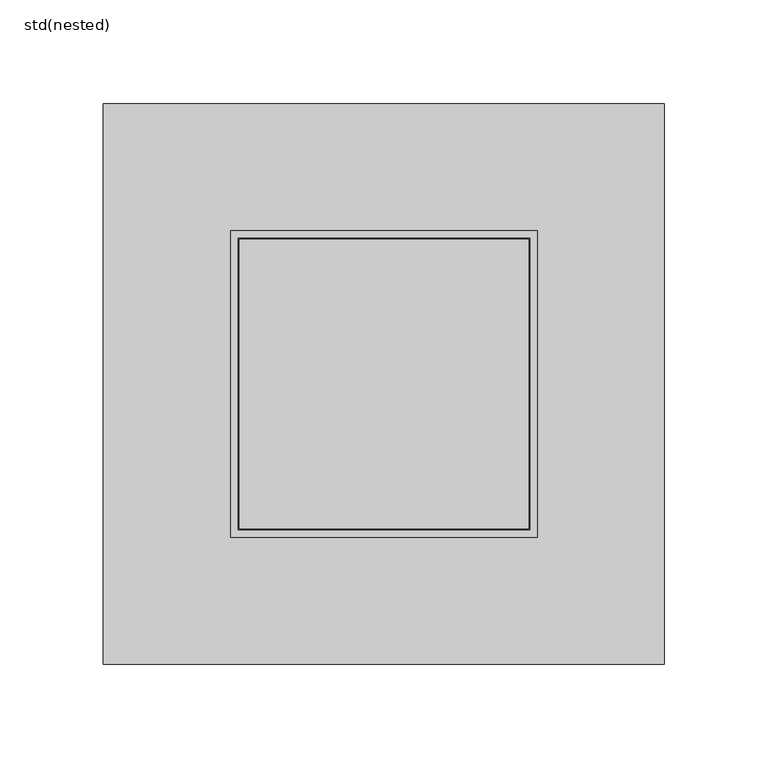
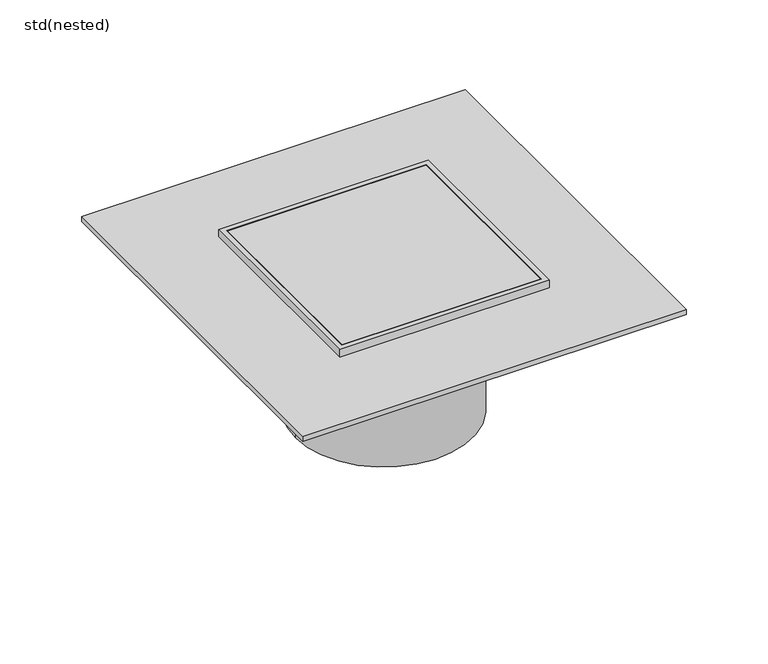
"""IFC4 building model written with IfcOpenShell, lengths in millimetres: sanitary terminal geometry, ZZZ_do not use_PF_ST_WPB_sanded flange floor gratings_CR 142_ACO : std(nested)."""

from ifc_helpers import new_model, si_unit, frame, origin, place, context, project, spatial, polyline, circle_curve, outline, extrude, source, transform, mapped, element, save
from ifc_brep_helpers import plane_surface, cylinder_surface, advanced_brep


def std_nested_ba9d458a(model_context):
    return source(origin(), model_context, "Body", "SolidModel", [
        extrude(outline(polyline([(135.5, 135.5), (135.5, -135.5), (-135.5, -135.5), (-135.5, 135.5), (135.5, 135.5)])), frame((0.0, 0.0, -10.0), z_axis=(0.0, 0.0, 1.0), x_axis=(1.0, 0.0, 0.0)), (0.0, 0.0, 1.0), 4.0),
        advanced_brep(
        [(-62.5, 0.0, -115.0), (62.5, 0.0, -115.0), (62.5, 0.0, -48.5), (-62.5, 0.0, -48.5), (-62.5, 0.0, -13.5), (62.5, 0.0, -13.5), (74.0, 74.0, -8.0), (74.0, 74.0, 0.0), (74.0, -74.0, 0.0), (74.0, -74.0, -8.0), (72.5, 72.5, -13.5), (72.5, 72.5, -8.0), (72.5, -72.5, -8.0), (72.5, -72.5, -13.5), (-74.0, -74.0, 0.0), (-74.0, -74.0, -8.0), (-72.5, -72.5, -8.0), (-72.5, -72.5, -13.5), (-74.0, 74.0, 0.0), (-74.0, 74.0, -8.0), (-72.5, 72.5, -8.0), (-72.5, 72.5, -13.5), (70.5, 70.5, 0.0), (70.5, -70.5, 0.0), (-70.5, -70.5, 0.0), (-70.5, 70.5, 0.0), (70.5, 70.5, -11.5), (70.5, -70.5, -11.5), (-70.5, -70.5, -11.5), (-70.5, 70.5, -11.5), (70.0, -70.0, -11.5), (-70.0, -70.0, -11.5), (-70.0, 70.0, -11.5), (70.0, 70.0, -11.5), (-70.0, -70.0, 0.0), (70.0, -70.0, 0.0), (70.0, 70.0, 0.0), (-70.0, 70.0, 0.0)],
        [
            (0, 1, circle_curve(frame((0.0, 0.0, -115.0), z_axis=(0.0, 0.0, -1.0), x_axis=(1.0, 0.0, 0.0)), 62.5)),
            (1, 0, circle_curve(frame((0.0, 0.0, -115.0), z_axis=(0.0, 0.0, -1.0), x_axis=(1.0, 0.0, 0.0)), 62.5)),
            (1, 2),
            (2, 3, circle_curve(frame((0.0, 0.0, -48.5), z_axis=(0.0, 0.0, -1.0), x_axis=(1.0, 0.0, 0.0)), 62.5)),
            (3, 0),
            (3, 2, circle_curve(frame((0.0, 0.0, -48.5), z_axis=(0.0, 0.0, -1.0), x_axis=(1.0, 0.0, 0.0)), 62.5)),
            (4, 3),
            (2, 5),
            (5, 4, circle_curve(frame((0.0, 0.0, -13.5), z_axis=(0.0, 0.0, -1.0), x_axis=(1.0, 0.0, 0.0)), 62.5)),
            (4, 5, circle_curve(frame((0.0, 0.0, -13.5), z_axis=(0.0, 0.0, -1.0), x_axis=(1.0, 0.0, 0.0)), 62.5)),
            (6, 7),
            (7, 8),
            (8, 9),
            (9, 6),
            (10, 11),
            (11, 12),
            (12, 13),
            (13, 10),
            (8, 14),
            (14, 15),
            (15, 9),
            (12, 16),
            (16, 17),
            (17, 13),
            (14, 18),
            (18, 19),
            (19, 15),
            (16, 20),
            (20, 21),
            (21, 17),
            (7, 18),
            (22, 23),
            (23, 24),
            (24, 25),
            (25, 22),
            (6, 19),
            (11, 20),
            (10, 21),
            (22, 26),
            (26, 27),
            (27, 23),
            (27, 28),
            (28, 24),
            (28, 29),
            (29, 25),
            (26, 29),
            (30, 31),
            (31, 32),
            (32, 33),
            (33, 30),
            (34, 35),
            (35, 36),
            (36, 37),
            (37, 34),
            (34, 31),
            (30, 35),
            (33, 36),
            (32, 37),
        ],
        [
            plane_surface(frame((62.5, 0.0, -115.0), z_axis=(0.0, 0.0, -1.0), x_axis=(0.0, -1.0, 0.0))),
            cylinder_surface(frame((0.0, 0.0, -115.0), z_axis=(0.0, 0.0, 1.0), x_axis=(1.0, 0.0, 0.0)), 62.5),
            cylinder_surface(frame((0.0, 0.0, -48.5), z_axis=(0.0, 0.0, 1.0), x_axis=(1.0, 0.0, 0.0)), 62.5),
            plane_surface(frame((74.0, 74.0, 0.0), z_axis=(1.0, 0.0, 0.0), x_axis=(0.0, -1.0, 0.0))),
            plane_surface(frame((72.5, 72.5, -8.0), z_axis=(1.0, 0.0, 0.0), x_axis=(0.0, -1.0, 0.0))),
            plane_surface(frame((74.0, -74.0, 0.0), z_axis=(0.0, -1.0, 0.0), x_axis=(-1.0, 0.0, 0.0))),
            plane_surface(frame((72.5, -72.5, -8.0), z_axis=(0.0, -1.0, 0.0), x_axis=(-1.0, 0.0, 0.0))),
            plane_surface(frame((-74.0, -74.0, 0.0), z_axis=(-1.0, 0.0, 0.0), x_axis=(0.0, 1.0, 0.0))),
            plane_surface(frame((-72.5, -72.5, -8.0), z_axis=(-1.0, 0.0, 0.0), x_axis=(0.0, 1.0, 0.0))),
            plane_surface(frame((-70.5, 70.5, 0.0), z_axis=(0.0, 0.0, 1.0), x_axis=(1.0, 0.0, 0.0))),
            plane_surface(frame((-74.0, 74.0, 0.0), z_axis=(0.0, 1.0, 0.0), x_axis=(1.0, 0.0, 0.0))),
            plane_surface(frame((-74.0, 74.0, -8.0), z_axis=(0.0, 0.0, -1.0), x_axis=(1.0, 0.0, 0.0))),
            plane_surface(frame((-72.5, 72.5, -8.0), z_axis=(0.0, 1.0, 0.0), x_axis=(1.0, 0.0, 0.0))),
            plane_surface(frame((-72.5, 72.5, -13.5), z_axis=(0.0, 0.0, -1.0), x_axis=(1.0, 0.0, 0.0))),
            plane_surface(frame((70.5, 70.5, -11.5), z_axis=(-1.0, 0.0, 0.0), x_axis=(0.0, -1.0, 0.0))),
            plane_surface(frame((70.5, -70.5, -11.5), z_axis=(0.0, 1.0, 0.0), x_axis=(-1.0, 0.0, 0.0))),
            plane_surface(frame((-70.5, -70.5, -11.5), z_axis=(1.0, 0.0, 0.0), x_axis=(0.0, 1.0, 0.0))),
            plane_surface(frame((0.0, 0.0, -11.5), z_axis=(0.0, 0.0, 1.0), x_axis=(1.0, 0.0, 0.0))),
            plane_surface(frame((-70.5, 70.5, -11.5), z_axis=(0.0, -1.0, 0.0), x_axis=(1.0, 0.0, 0.0))),
            plane_surface(frame((70.0, -70.0, 0.0), z_axis=(0.0, 0.0, 1.0), x_axis=(1.0, 0.0, 0.0))),
            plane_surface(frame((-70.0, -70.0, 0.0), z_axis=(0.0, -1.0, 0.0), x_axis=(0.0, 0.0, -1.0))),
            plane_surface(frame((70.0, -70.0, 0.0), z_axis=(1.0, 0.0, 0.0), x_axis=(0.0, 0.0, -1.0))),
            plane_surface(frame((70.0, 70.0, 0.0), z_axis=(0.0, 1.0, 0.0), x_axis=(0.0, 0.0, -1.0))),
            plane_surface(frame((-70.0, 70.0, 0.0), z_axis=(-1.0, 0.0, 0.0), x_axis=(0.0, 0.0, -1.0))),
        ],
        [
            (0, [[1, 2]]),
            (1, [[-2, 3, 4, 5]]),
            (1, [[-1, -5, 6, -3]]),
            (2, [[7, -4, 8, 9]]),
            (2, [[-7, 10, -8, -6]]),
            (3, [[11, 12, 13, 14]]),
            (4, [[15, 16, 17, 18]]),
            (5, [[-13, 19, 20, 21]]),
            (6, [[-17, 22, 23, 24]]),
            (7, [[-20, 25, 26, 27]]),
            (8, [[-23, 28, 29, 30]]),
            (9, [[-12, 31, -25, -19], [32, 33, 34, 35]]),
            (10, [[-11, 36, -26, -31]]),
            (11, [[-14, -21, -27, -36], [-16, 37, -28, -22]]),
            (12, [[-15, 38, -29, -37]]),
            (13, [[-18, -24, -30, -38], [-9, -10]]),
            (14, [[39, 40, 41, -32]]),
            (15, [[-41, 42, 43, -33]]),
            (16, [[-43, 44, 45, -34]]),
            (17, [[-40, 46, -44, -42], [47, 48, 49, 50]]),
            (18, [[-39, -35, -45, -46]]),
            (19, [[51, 52, 53, 54]]),
            (20, [[-51, 55, -47, 56]]),
            (21, [[-52, -56, -50, 57]]),
            (22, [[-53, -57, -49, 58]]),
            (23, [[-54, -58, -48, -55]]),
        ],
    ),
    ])


if __name__ == "__main__":
    model = new_model("IFC4")
    model_context = context("Model", 3, world=origin())
    ifc_project = project(units=[si_unit("LENGTHUNIT", "METRE", prefix="MILLI")], contexts=[model_context])
    site = spatial("IfcSite", under=ifc_project)
    building = spatial("IfcBuilding", under=site)
    placement = place(None, origin())
    std_nested_shape = std_nested_ba9d458a(model_context)
    element("IfcSanitaryTerminal", 1, ObjectType="ZZZ_do not use_PF_ST_WPB_sanded flange floor gratings_CR 142_ACO : std(nested)", at=placement, inside=building, context=model_context, shape_type="MappedRepresentation", body=[
        mapped(std_nested_shape, transform((0.0, 0.0, 0.0), x_axis=(1.0, 0.0, 0.0), y_axis=(0.0, 1.0, 0.0), z_axis=(0.0, 0.0, 1.0))),
    ])
    save(model, "model.ifc")
